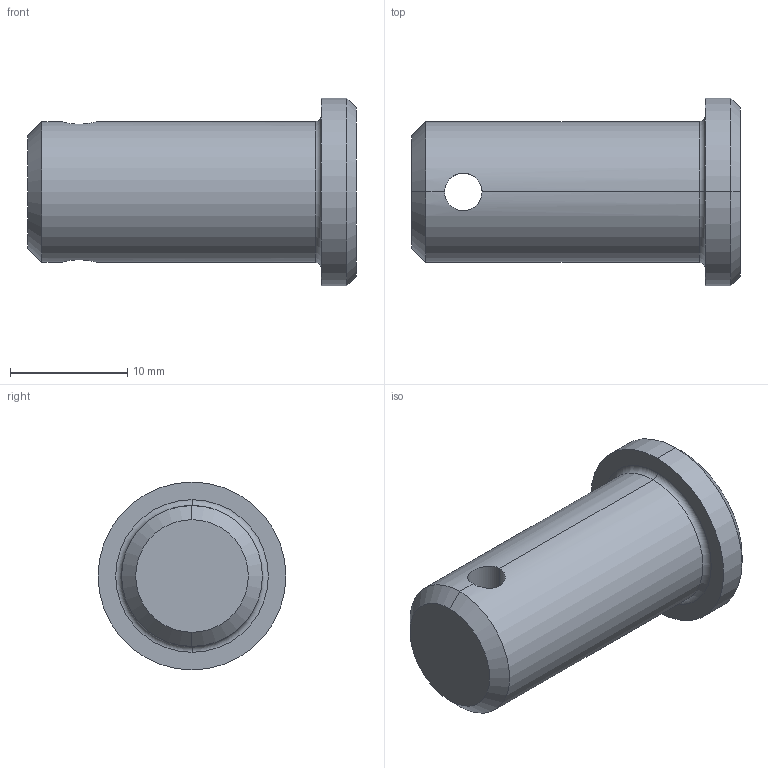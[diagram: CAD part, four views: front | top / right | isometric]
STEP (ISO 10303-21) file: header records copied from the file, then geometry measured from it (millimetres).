
FILE_DESCRIPTION (( 'STEP AP203' ), '1' );
FILE_NAME ('Wiberger-sms2360_12x25.step', '2012-10-09T08:57:21', ( 'Magnus' ), ( 'Wiberger' ), 'SwSTEP 2.0', 'SolidWorks 2011', '' );
FILE_SCHEMA (( 'CONFIG_CONTROL_DESIGN' ));
Length unit declared in the file: millimetre
Products named in the file (1): Wiberger-sms2360_12x25
Bounding box: 28 x 16 x 16 mm (x, y, z)
Volume: 3296.2 mm3; surface area: 1536.9 mm2
Topology: 1 solids, 1 shells, 15 faces, 32 edges, 18 vertices
Faces by surface type: cylinder 6, cone 4, plane 3, torus 2
Entity records: 579 total; most frequent: CARTESIAN_POINT 170, DIRECTION 76, ORIENTED_EDGE 64, EDGE_CURVE 32, AXIS2_PLACEMENT_3D 32, VERTEX_POINT 18, EDGE_LOOP 16, CIRCLE 16
